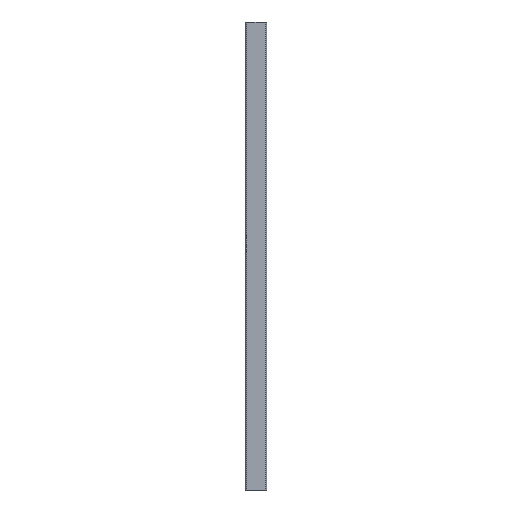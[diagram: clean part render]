
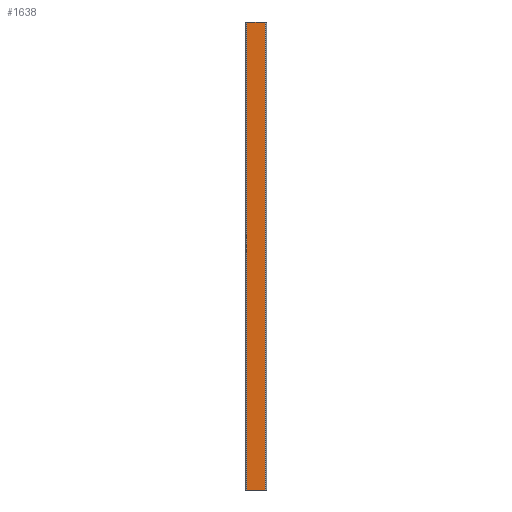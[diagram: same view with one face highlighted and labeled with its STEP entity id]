
A CAD part, left-side view. The second image highlights one B-rep face of the part: STEP entity #1638.
In plain terms, the highlighted planar face has unit normal (-1, 0, 0).
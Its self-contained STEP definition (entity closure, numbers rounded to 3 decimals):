
#28 = EDGE_CURVE ( 'NONE', #1513, #771, #611, .T. ) ;
#49 = VECTOR ( 'NONE', #1701, 1000. ) ;
#84 = ORIENTED_EDGE ( 'NONE', *, *, #1289, .T. ) ;
#178 = VECTOR ( 'NONE', #743, 1000. ) ;
#266 = VECTOR ( 'NONE', #399, 1000. ) ;
#386 = CARTESIAN_POINT ( 'NONE',  ( -9.5, -19.5, -500. ) ) ;
#399 = DIRECTION ( 'NONE',  ( 0., 0., 1. ) ) ;
#455 = DIRECTION ( 'NONE',  ( 0., 0., -1. ) ) ;
#465 = PLANE ( 'NONE',  #484 ) ;
#474 = DIRECTION ( 'NONE',  ( 1., 0., 0. ) ) ;
#484 = AXIS2_PLACEMENT_3D ( 'NONE', #1052, #474, #1645 ) ;
#486 = CARTESIAN_POINT ( 'NONE',  ( -9.5, 19.5, 500. ) ) ;
#611 = LINE ( 'NONE', #1070, #1483 ) ;
#715 = ORIENTED_EDGE ( 'NONE', *, *, #1673, .T. ) ;
#743 = DIRECTION ( 'NONE',  ( 0., -1., 0. ) ) ;
#755 = VERTEX_POINT ( 'NONE', #1208 ) ;
#771 = VERTEX_POINT ( 'NONE', #1362 ) ;
#833 = ORIENTED_EDGE ( 'NONE', *, *, #1079, .F. ) ;
#838 = CARTESIAN_POINT ( 'NONE',  ( -9.5, -19.5, 500. ) ) ;
#858 = LINE ( 'NONE', #838, #266 ) ;
#986 = VERTEX_POINT ( 'NONE', #386 ) ;
#1052 = CARTESIAN_POINT ( 'NONE',  ( -9.5, 22.5, 500. ) ) ;
#1070 = CARTESIAN_POINT ( 'NONE',  ( -9.5, 19.5, 500. ) ) ;
#1079 = EDGE_CURVE ( 'NONE', #1513, #755, #1628, .T. ) ;
#1098 = CARTESIAN_POINT ( 'NONE',  ( -9.5, 22.5, -500. ) ) ;
#1208 = CARTESIAN_POINT ( 'NONE',  ( -9.5, -19.5, 500. ) ) ;
#1289 = EDGE_CURVE ( 'NONE', #986, #755, #858, .T. ) ;
#1362 = CARTESIAN_POINT ( 'NONE',  ( -9.5, 19.5, -500. ) ) ;
#1419 = LINE ( 'NONE', #1098, #49 ) ;
#1470 = EDGE_LOOP ( 'NONE', ( #715, #84, #833, #1772 ) ) ;
#1483 = VECTOR ( 'NONE', #455, 1000. ) ;
#1513 = VERTEX_POINT ( 'NONE', #486 ) ;
#1628 = LINE ( 'NONE', #1919, #178 ) ;
#1638 = ADVANCED_FACE ( 'NONE', ( #1801 ), #465, .F. ) ;
#1645 = DIRECTION ( 'NONE',  ( 0., 1., 0. ) ) ;
#1673 = EDGE_CURVE ( 'NONE', #771, #986, #1419, .T. ) ;
#1701 = DIRECTION ( 'NONE',  ( 0., -1., 0. ) ) ;
#1772 = ORIENTED_EDGE ( 'NONE', *, *, #28, .T. ) ;
#1801 = FACE_OUTER_BOUND ( 'NONE', #1470, .T. ) ;
#1919 = CARTESIAN_POINT ( 'NONE',  ( -9.5, 22.5, 500. ) ) ;
